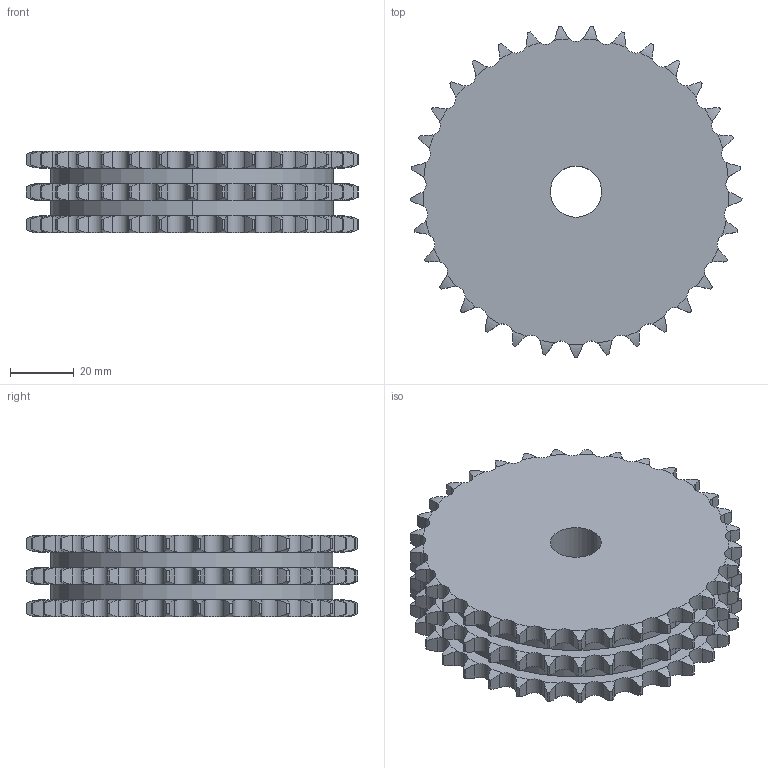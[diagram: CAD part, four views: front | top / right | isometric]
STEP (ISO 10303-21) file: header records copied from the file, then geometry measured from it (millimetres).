
FILE_DESCRIPTION((''),'2;1');
FILE_NAME('500-103-0033_PRT','2021-02-12T',('Brieden'),('Brieden'),'PRO/ENGINEER BY PARAMETRIC TECHNOLOGY CORPORATION, 2010160','PRO/ENGINEER BY PARAMETRIC TECHNOLOGY CORPORATION, 2010160','');
FILE_SCHEMA(('AUTOMOTIVE_DESIGN { 1 0 10303 214 1 1 1 1 }'));
Length unit declared in the file: millimetre
Products named in the file (1): 500-103-0033_PRT
Bounding box: 103.76 x 103.64 x 25.6 mm (x, y, z)
Volume: 172158.6 mm3; surface area: 30977.7 mm2
Topology: 1 solids, 1 shells, 606 faces, 1800 edges, 1200 vertices
Faces by surface type: cylinder 402, torus 198, plane 6
Entity records: 29205 total; most frequent: CARTESIAN_POINT 8454, ORIENTED_EDGE 3600, DIRECTION 2826, PRESENTATION_STYLE_ASSIGNMENT 1801, STYLED_ITEM 1801, CURVE_STYLE 1800, EDGE_CURVE 1800, AXIS2_PLACEMENT_3D 1212
